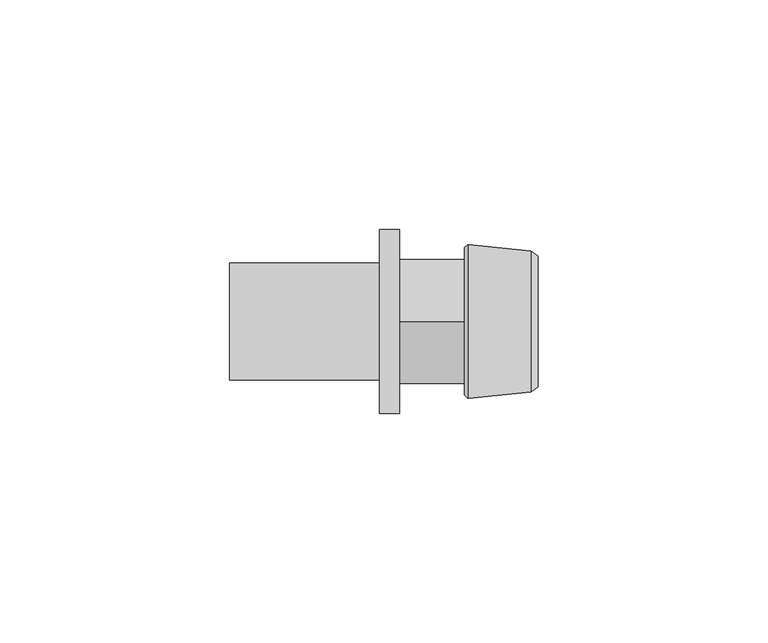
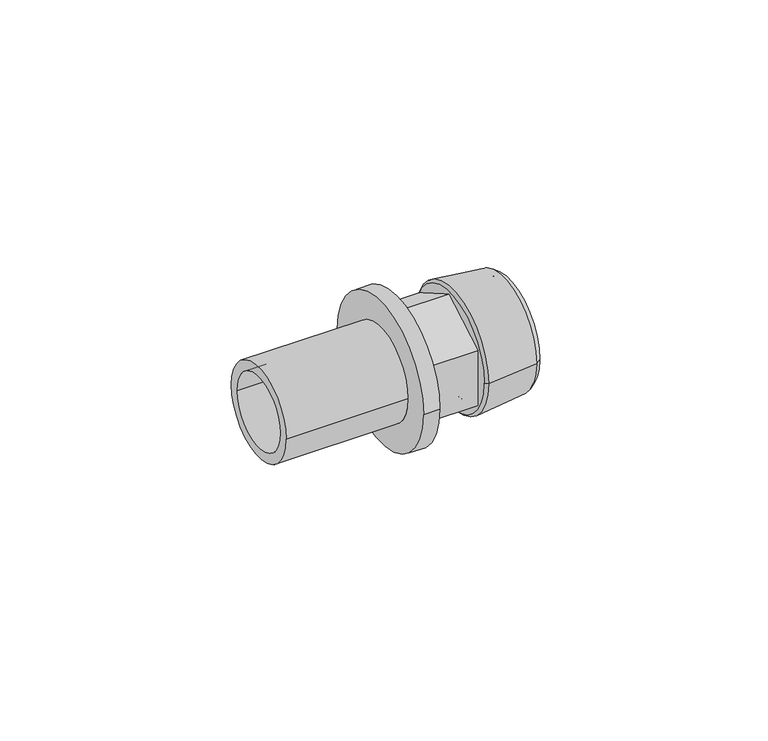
"""IFC4 building model written with IfcOpenShell, lengths in millimetres: pipe fitting geometry, REHAU_RAUTITAN_Adaptor_RX+, with external thread : REHAU_RAUTITAN_Adaptor_RX+, with external thread."""

from ifc_helpers import new_model, si_unit, point, frame, origin, origin_2d, place, context, project, spatial, polyline, circle_curve, trimmed, segment, composite_curve, outline, extrude, source, transform, mapped, element, save
from ifc_brep_helpers import plane_surface, cylinder_surface, revolved_surface, advanced_brep


def pipe_fitting_af6f0c80(model_context):
    return source(origin(), model_context, "Body", "SolidModel", [
        advanced_brep(
        [(15.2932803, 12.75, 0.0), (15.2932803, -12.75, 0.0), (30.14, -12.75, 0.0), (30.14, 12.75, 0.0), (14.19, 11.6467197, 0.0), (14.19, -11.6467197, 0.0), (14.9306902, 16.715, 0.0), (14.9306902, -16.715, 0.0), (14.19, -16.045, 0.0), (14.19, 16.045, 0.0), (28.6400007, 15.305, 0.0), (28.6400007, -15.305, 0.0), (30.14, 14.235, 0.0), (30.14, -14.235, 0.0)],
        [
            (0, 1, circle_curve(frame((15.2932803, 0.0, 0.0), z_axis=(-1.0, 0.0, 0.0), x_axis=(0.0, -1.0, 0.0)), 12.75)),
            (1, 2),
            (2, 3, circle_curve(frame((30.14, 0.0, 0.0), z_axis=(1.0, 0.0, 0.0), x_axis=(0.0, -1.0, 0.0)), 12.75)),
            (3, 0),
            (4, 5, circle_curve(frame((14.19, 0.0, 0.0), z_axis=(-1.0, 0.0, 0.0), x_axis=(0.0, -1.0, 0.0)), 11.6467197)),
            (5, 1),
            (0, 4),
            (6, 7, circle_curve(frame((14.9306902, 0.0, 0.0), z_axis=(-1.0, 0.0, 0.0), x_axis=(0.0, -1.0, 0.0)), 16.715)),
            (7, 8),
            (8, 9, circle_curve(frame((14.19, 0.0, 0.0), z_axis=(1.0, 0.0, 0.0), x_axis=(0.0, -1.0, 0.0)), 16.045)),
            (9, 6),
            (10, 11, circle_curve(frame((28.6400007, 0.0, 0.0), z_axis=(-1.0, 0.0, 0.0), x_axis=(0.0, -1.0, 0.0)), 15.305)),
            (11, 7),
            (6, 10),
            (12, 13, circle_curve(frame((30.14, 0.0, 0.0), z_axis=(-1.0, 0.0, 0.0), x_axis=(0.0, -1.0, 0.0)), 14.235)),
            (13, 11),
            (10, 12),
            (1, 0, circle_curve(frame((15.2932803, 0.0, 0.0), z_axis=(-1.0, 0.0, 0.0), x_axis=(0.0, 1.0, 0.0)), 12.75)),
            (3, 2, circle_curve(frame((30.14, 0.0, 0.0), z_axis=(1.0, 0.0, 0.0), x_axis=(0.0, 1.0, 0.0)), 12.75)),
            (5, 4, circle_curve(frame((14.19, 0.0, 0.0), z_axis=(-1.0, 0.0, 0.0), x_axis=(0.0, 1.0, 0.0)), 11.6467197)),
            (8, 9, circle_curve(frame((14.19, 0.0, 0.0), z_axis=(-1.0, 0.0, 0.0), x_axis=(0.0, 1.0, 0.0)), 16.045)),
            (7, 6, circle_curve(frame((14.9306902, 0.0, 0.0), z_axis=(-1.0, 0.0, 0.0), x_axis=(0.0, 1.0, 0.0)), 16.715)),
            (11, 10, circle_curve(frame((28.6400007, 0.0, 0.0), z_axis=(-1.0, 0.0, 0.0), x_axis=(0.0, 1.0, 0.0)), 15.305)),
            (13, 12, circle_curve(frame((30.14, 0.0, 0.0), z_axis=(-1.0, 0.0, 0.0), x_axis=(0.0, 1.0, 0.0)), 14.235)),
        ],
        [
            revolved_surface(polyline([(30.14, -12.75, 0.0), (15.2932803, -12.75, 0.0)]), (0.0, 0.0, 0.0), (1.0, 0.0, 0.0)),
            revolved_surface(polyline([(15.2932803, -12.75, 0.0), (14.19, -11.6467197, 0.0)]), (0.0, 0.0, 0.0), (1.0, 0.0, 0.0)),
            revolved_surface(polyline([(14.19, -16.045, 0.0), (14.9306902, -16.715, 0.0)]), (0.0, 0.0, 0.0), (1.0, 0.0, 0.0)),
            revolved_surface(polyline([(14.9306902, -16.715, 0.0), (28.6400007, -15.305, 0.0)]), (0.0, 0.0, 0.0), (1.0, 0.0, 0.0)),
            revolved_surface(polyline([(28.6400007, -15.305, 0.0), (30.14, -14.235, 0.0)]), (0.0, 0.0, 0.0), (1.0, 0.0, 0.0)),
            revolved_surface(polyline([(30.14, 12.75, 0.0), (15.2932803, 12.75, 0.0)]), (0.0, 0.0, 0.0), (1.0, 0.0, 0.0)),
            revolved_surface(polyline([(15.2932803, 12.75, 0.0), (14.19, 11.6467197, 0.0)]), (0.0, 0.0, 0.0), (1.0, 0.0, 0.0)),
            plane_surface(frame((14.19, 0.0, 0.0), z_axis=(-1.0, 0.0, 0.0), x_axis=(0.0, 1.0, 0.0))),
            revolved_surface(polyline([(14.19, 16.045, 0.0), (14.9306902, 16.715, 0.0)]), (0.0, 0.0, 0.0), (1.0, 0.0, 0.0)),
            revolved_surface(polyline([(14.9306902, 16.715, 0.0), (28.6400007, 15.305, 0.0)]), (0.0, 0.0, 0.0), (1.0, 0.0, 0.0)),
            revolved_surface(polyline([(28.6400007, 15.305, 0.0), (30.14, 14.235, 0.0)]), (0.0, 0.0, 0.0), (1.0, 0.0, 0.0)),
            plane_surface(frame((30.14, 0.0, 0.0), z_axis=(1.0, 0.0, 0.0), x_axis=(0.0, 1.0, 0.0))),
        ],
        [
            (0, [[1, 2, 3, 4]]),
            (1, [[5, 6, -1, 7]]),
            (2, [[8, 9, 10, 11]]),
            (3, [[12, 13, -8, 14]]),
            (4, [[15, 16, -12, 17]]),
            (5, [[18, -4, 19, -2]]),
            (6, [[20, -7, -18, -6]]),
            (7, [[21, -10], [-20, -5]]),
            (8, [[22, -11, -21, -9]]),
            (9, [[23, -14, -22, -13]]),
            (10, [[24, -17, -23, -16]]),
            (11, [[-24, -15], [-19, -3]]),
        ],
    ),
        extrude(outline(polyline([(0.0, -15.5884573), (-13.5, -7.7942286), (-13.5, 7.7942286), (0.0, 15.5884573), (13.5, 7.7942286), (13.5, -7.7942286), (0.0, -15.5884573)]), holes=[composite_curve([segment(trimmed(circle_curve(origin_2d(), 10.0), [point((-10.0, 0.0))], [point((10.0, 0.0))], True, "CARTESIAN"), True, "CONTINUOUS"), segment(trimmed(circle_curve(origin_2d(), 10.0), [point((10.0, 0.0))], [point((-10.0, 0.0))], True, "CARTESIAN"), True, "CONTINUOUS")], self_intersect=False)]), frame((0.0, 0.0, 0.0), z_axis=(1.0, 0.0, 0.0), x_axis=(0.0, 1.0, 0.0)), (0.0, 0.0, 1.0), 14.19),
        advanced_brep(
        [(-36.96, 10.0, 0.0), (-36.96, -10.0, 0.0), (0.0, -10.0, 0.0), (0.0, 10.0, 0.0), (-4.33, 12.725, 0.0), (-4.33, -12.725, 0.0), (-36.96, -12.725, 0.0), (-36.96, 12.725, 0.0), (0.0, 20.0, 0.0), (0.0, -20.0, 0.0), (-4.33, -20.0, 0.0), (-4.33, 20.0, 0.0)],
        [
            (0, 1, circle_curve(frame((-36.96, 0.0, 0.0), z_axis=(-1.0, 0.0, 0.0), x_axis=(0.0, -1.0, 0.0)), 10.0)),
            (1, 2),
            (2, 3, circle_curve(frame((0.0, 0.0, 0.0), z_axis=(1.0, 0.0, 0.0), x_axis=(0.0, -1.0, 0.0)), 10.0)),
            (3, 0),
            (4, 5, circle_curve(frame((-4.33, 0.0, 0.0), z_axis=(-1.0, 0.0, 0.0), x_axis=(0.0, -1.0, 0.0)), 12.725)),
            (5, 6),
            (6, 7, circle_curve(frame((-36.96, 0.0, 0.0), z_axis=(1.0, 0.0, 0.0), x_axis=(0.0, -1.0, 0.0)), 12.725)),
            (7, 4),
            (8, 9, circle_curve(frame((0.0, 0.0, 0.0), z_axis=(-1.0, 0.0, 0.0), x_axis=(0.0, -1.0, 0.0)), 20.0)),
            (9, 10),
            (10, 11, circle_curve(frame((-4.33, 0.0, 0.0), z_axis=(1.0, 0.0, 0.0), x_axis=(0.0, -1.0, 0.0)), 20.0)),
            (11, 8),
            (8, 9, circle_curve(frame((0.0, 0.0, 0.0), z_axis=(1.0, 0.0, 0.0), x_axis=(0.0, 1.0, 0.0)), 20.0)),
            (2, 3, circle_curve(frame((0.0, 0.0, 0.0), z_axis=(-1.0, 0.0, 0.0), x_axis=(0.0, 1.0, 0.0)), 10.0)),
            (1, 0, circle_curve(frame((-36.96, 0.0, 0.0), z_axis=(-1.0, 0.0, 0.0), x_axis=(0.0, 1.0, 0.0)), 10.0)),
            (6, 7, circle_curve(frame((-36.96, 0.0, 0.0), z_axis=(-1.0, 0.0, 0.0), x_axis=(0.0, 1.0, 0.0)), 12.725)),
            (5, 4, circle_curve(frame((-4.33, 0.0, 0.0), z_axis=(-1.0, 0.0, 0.0), x_axis=(0.0, 1.0, 0.0)), 12.725)),
            (10, 11, circle_curve(frame((-4.33, 0.0, 0.0), z_axis=(-1.0, 0.0, 0.0), x_axis=(0.0, 1.0, 0.0)), 20.0)),
        ],
        [
            revolved_surface(polyline([(0.0, -10.0, 0.0), (-36.96, -10.0, 0.0)]), (0.0, 0.0, 0.0), (1.0, 0.0, 0.0)),
            cylinder_surface(frame((0.0, 0.0, 0.0), z_axis=(1.0, 0.0, 0.0), x_axis=(0.0, -1.0, 0.0)), 12.725),
            cylinder_surface(frame((0.0, 0.0, 0.0), z_axis=(1.0, 0.0, 0.0), x_axis=(0.0, -1.0, 0.0)), 20.0),
            plane_surface(frame((0.0, 0.0, 0.0), z_axis=(1.0, 0.0, 0.0), x_axis=(0.0, 1.0, 0.0))),
            revolved_surface(polyline([(0.0, 10.0, 0.0), (-36.96, 10.0, 0.0)]), (0.0, 0.0, 0.0), (1.0, 0.0, 0.0)),
            plane_surface(frame((-36.96, 0.0, 0.0), z_axis=(-1.0, 0.0, 0.0), x_axis=(0.0, 1.0, 0.0))),
            cylinder_surface(frame((0.0, 0.0, 0.0), z_axis=(1.0, 0.0, 0.0), x_axis=(0.0, 1.0, 0.0)), 12.725),
            plane_surface(frame((-4.33, 0.0, 0.0), z_axis=(-1.0, 0.0, 0.0), x_axis=(0.0, 1.0, 0.0))),
            cylinder_surface(frame((0.0, 0.0, 0.0), z_axis=(1.0, 0.0, 0.0), x_axis=(0.0, 1.0, 0.0)), 20.0),
        ],
        [
            (0, [[1, 2, 3, 4]]),
            (1, [[5, 6, 7, 8]]),
            (2, [[9, 10, 11, 12]]),
            (3, [[13, -9], [14, -3]]),
            (4, [[15, -4, -14, -2]]),
            (5, [[16, -7], [-15, -1]]),
            (6, [[17, -8, -16, -6]]),
            (7, [[18, -11], [-17, -5]]),
            (8, [[-13, -12, -18, -10]]),
        ],
    ),
    ])


if __name__ == "__main__":
    model = new_model("IFC4")
    model_context = context("Model", 3, world=origin())
    ifc_project = project(units=[si_unit("LENGTHUNIT", "METRE", prefix="MILLI")], contexts=[model_context])
    site = spatial("IfcSite", under=ifc_project)
    building = spatial("IfcBuilding", under=site)
    placement = place(None, origin())
    pipe_fitting_shape = pipe_fitting_af6f0c80(model_context)
    element("IfcPipeFitting", 1, ObjectType="REHAU_RAUTITAN_Adaptor_RX+, with external thread : REHAU_RAUTITAN_Adaptor_RX+, with external thread", at=placement, inside=building, context=model_context, shape_type="MappedRepresentation", body=[
        mapped(pipe_fitting_shape, transform((0.0, 0.0, 0.0), x_axis=(1.0, 0.0, 0.0), y_axis=(0.0, 1.0, 0.0), z_axis=(0.0, 0.0, 1.0))),
    ])
    save(model, "model.ifc")
